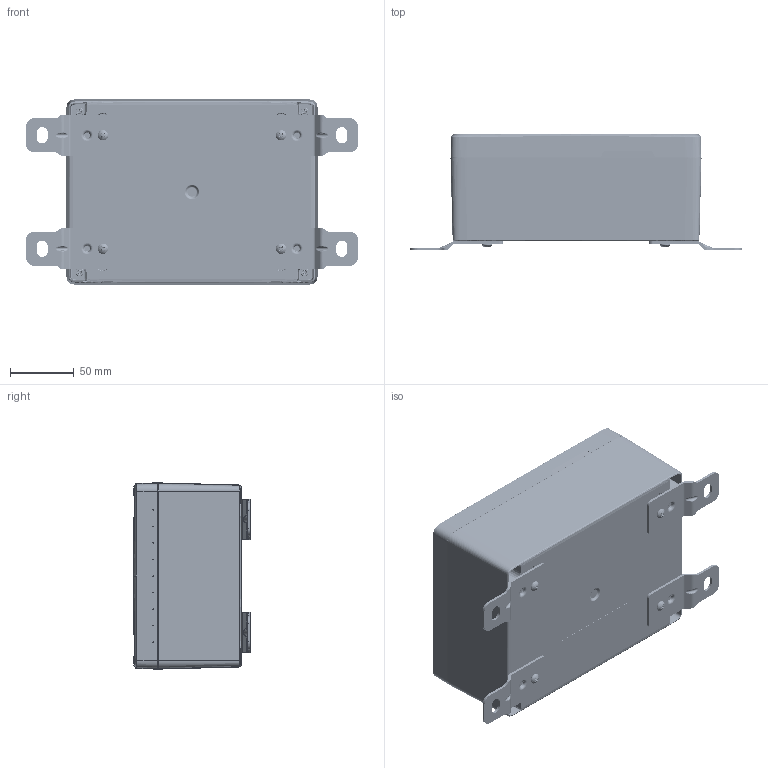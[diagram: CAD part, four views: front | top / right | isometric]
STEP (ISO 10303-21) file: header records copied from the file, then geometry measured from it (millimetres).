
FILE_DESCRIPTION (( 'STEP AP214' ), '1' );
FILE_NAME ('HN-68-24.STEP', '2026-02-24T14:51:38', ( '' ), ( '' ), 'SwSTEP 2.0', 'SolidWorks 2025', '' );
FILE_SCHEMA (( 'AUTOMOTIVE_DESIGN' ));
Length unit declared in the file: inch
Products named in the file (11): HN-68B_HN-68BP-00; HN-68-24; INSERTS-3_INSERTS-3; ZH-91F-01_ZH-91F-01; LABEL-107; HN-68BN_HN-68BPN-00; HN-68C_HN-68C-02; SCREWS-xxx_#8-16 PLASTITE, PAN, PHILLIPS_SCREWS-044; SCREWS-054_DEFAULT; HN-68G_default; HN-68CG_HN-68CG-02
Assembly tree (22 placements, depth 3):
  HN-68-24
    HN-68B_HN-68BP-00
      HN-68BN_HN-68BPN-00
      INSERTS-3_INSERTS-3  x4
      LABEL-107
    HN-68CG_HN-68CG-02
      HN-68C_HN-68C-02
      HN-68G_default
    SCREWS-054_DEFAULT  x4
    ZH-91F-01_ZH-91F-01  x4
    SCREWS-xxx_#8-16 PLASTITE, PAN, PHILLIPS_SCREWS-044  x4
Bounding box: 260.35 x 91.34 x 146.05 mm (x, y, z)
Volume: 413444.2 mm3; surface area: 276403.4 mm2
Topology: 19 solids, 21 shells, 5086 faces, 12546 edges, 7498 vertices
Faces by surface type: torus 1252, cone 1216, cylinder 895, bspline 842, plane 799, sphere 82
Entity records: 162161 total; most frequent: CARTESIAN_POINT 72776, ORIENTED_EDGE 19942, DIRECTION 17540, EDGE_CURVE 9974, AXIS2_PLACEMENT_3D 7714, VERTEX_POINT 5995, CIRCLE 4318, EDGE_LOOP 4166
